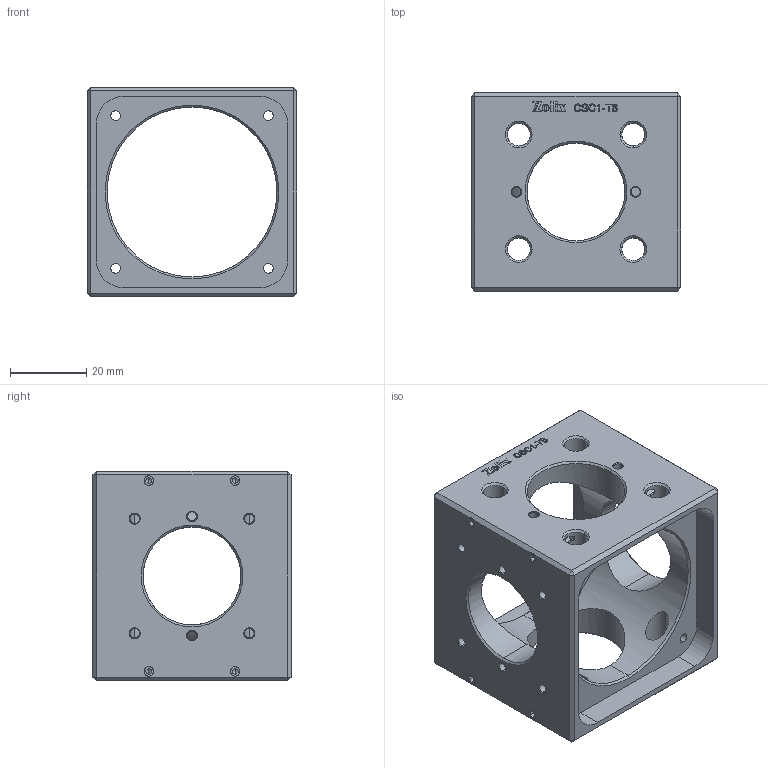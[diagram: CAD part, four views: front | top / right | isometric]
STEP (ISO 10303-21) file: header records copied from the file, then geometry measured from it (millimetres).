
FILE_DESCRIPTION (( 'STEP AP203' ), '1' );
FILE_NAME ('CSC1-T6.STEP', '2023-11-24T04:54:27', ( '' ), ( '' ), 'SwSTEP 2.0', 'SolidWorks 2021', '' );
FILE_SCHEMA (( 'CONFIG_CONTROL_DESIGN' ));
Length unit declared in the file: millimetre
Products named in the file (1): CSC1-T6
Bounding box: 55 x 52 x 55 mm (x, y, z)
Surface area: 22775.7 mm2 (no closed solid volume)
Topology: 0 solids, 16 shells, 316 faces, 1183 edges, 874 vertices
Faces by surface type: plane 119, cylinder 98, cone 92, bspline 7
Entity records: 15361 total; most frequent: CARTESIAN_POINT 5535, DIRECTION 1913, ORIENTED_EDGE 1806, EDGE_CURVE 1167, VERTEX_POINT 874, VECTOR 765, LINE 765, AXIS2_PLACEMENT_3D 574
